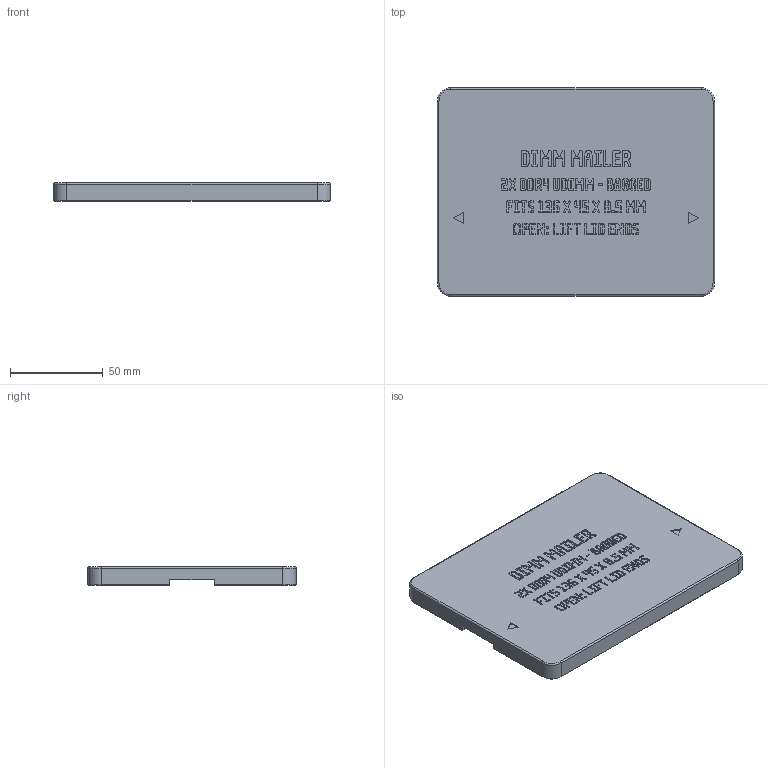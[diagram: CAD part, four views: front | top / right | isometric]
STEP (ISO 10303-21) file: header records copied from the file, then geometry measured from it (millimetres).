
FILE_DESCRIPTION(('Open CASCADE Model'),'2;1');
FILE_NAME('Open CASCADE Shape Model','2026-11-03T16:27:30',('Author'),( 'Open CASCADE'),'Open CASCADE STEP processor 8.0','build123d', 'Unknown');
FILE_SCHEMA(('AUTOMOTIVE_DESIGN { 1 0 10303 214 1 1 1 1 }'));
Products named in the file (1): COMPOUND
Bounding box: 149.3 x 112.3 x 10.2 mm (x, y, z)
Volume: 43902 mm3; surface area: 43201 mm2
Topology: 1 solids, 1 shells, 5629 faces, 16610 edges, 11068 vertices
Faces by surface type: plane 5607, cylinder 14, cone 4, torus 4
Entity records: 399538 total; most frequent: CARTESIAN_POINT 66672, DIRECTION 61032, LINE 49690, VECTOR 49690, ORIENTED_EDGE 33220, PCURVE 33220, DEFINITIONAL_REPRESENTATION 33220, EDGE_CURVE 16610
